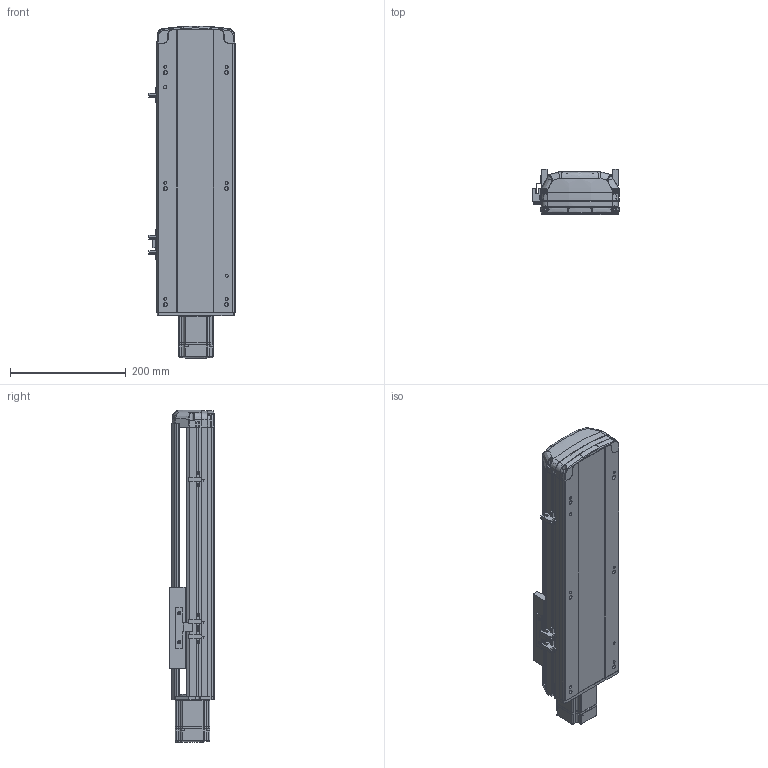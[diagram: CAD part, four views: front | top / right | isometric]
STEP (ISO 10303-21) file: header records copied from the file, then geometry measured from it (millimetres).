
FILE_DESCRIPTION (( 'STEP AP214' ), '1' );
FILE_NAME ('RTH14-XX-250-E-M20-C4.STEP', '2025-10-24T09:05:58', ( 'Microsoft' ), ( 'Microsoft' ), 'SwSTEP 2.0', 'SolidWorks 2018', '' );
FILE_SCHEMA (( 'AUTOMOTIVE_DESIGN' ));
Length unit declared in the file: millimetre
Products named in the file (9): N_RTH14-E-011P菁釱^RTH14-XX-XX-E-M20-C4; RTH14-XX-250-E-M20-C4; N_RTH13-E-008萇儂耜猾裔^RTH14-XX-XX-E-M20-C4; N_RTH14-GY-001P^RTH14-XX-XX-E-M20-C4; N_MSMD022P1AA_200W^RTH14-XX-XX-E-M20-C4; N_RTH14-R-004-SFSR16賑釱^RTH14-XX-XX-E-M20-C4; N_OMRON EE-SX672 传感器^RTH14-XX-XX-E-M20-C4; N_RTH13-L-012感应片（外置）^RTH14-XX-XX-E-M20-C4; N_RTH14-E-007P奻裔^RTH14-XX-XX-E-M20-C4
Assembly tree (10 placements, depth 2):
  RTH14-XX-250-E-M20-C4
    N_RTH14-E-011P菁釱^RTH14-XX-XX-E-M20-C4
    N_RTH14-E-007P奻裔^RTH14-XX-XX-E-M20-C4
    N_MSMD022P1AA_200W^RTH14-XX-XX-E-M20-C4
    N_RTH13-L-012感应片（外置）^RTH14-XX-XX-E-M20-C4
    N_OMRON EE-SX672 传感器^RTH14-XX-XX-E-M20-C4  x3
    N_RTH13-E-008萇儂耜猾裔^RTH14-XX-XX-E-M20-C4
    N_RTH14-R-004-SFSR16賑釱^RTH14-XX-XX-E-M20-C4
    N_RTH14-GY-001P^RTH14-XX-XX-E-M20-C4
Bounding box: 148.5 x 78.03 x 572.49 mm (x, y, z)
Volume: 2547812.9 mm3; surface area: 557513.4 mm2
Topology: 10 solids, 10 shells, 1839 faces, 5170 edges, 3396 vertices
Faces by surface type: plane 973, cylinder 476, bspline 341, cone 45, torus 4
Entity records: 56092 total; most frequent: CARTESIAN_POINT 22584, ORIENTED_EDGE 7408, DIRECTION 5923, EDGE_CURVE 3704, VERTEX_POINT 2432, VECTOR 2139, LINE 2139, AXIS2_PLACEMENT_3D 1892
